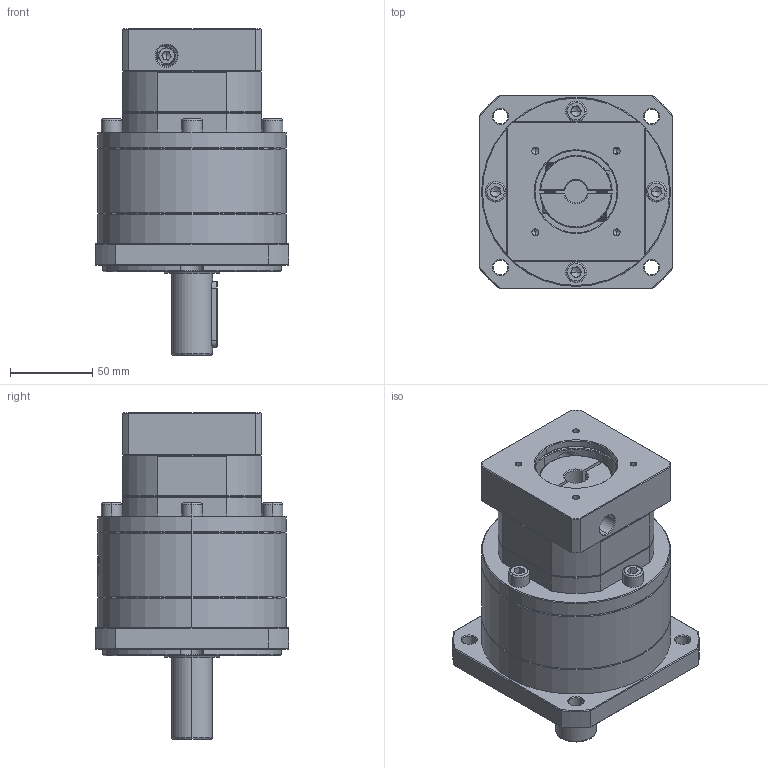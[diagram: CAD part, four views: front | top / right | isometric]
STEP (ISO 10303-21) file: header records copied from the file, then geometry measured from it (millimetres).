
FILE_DESCRIPTION (( 'STEP AP214' ), '1' );
FILE_NAME ('ZF120A-D25-L2-P2-14-50-70-M5.step', '2023-08-27T05:56:45', ( '' ), ( '' ), 'SwSTEP 2.0', 'SolidWorks 2016', '' );
FILE_SCHEMA (( 'AUTOMOTIVE_DESIGN' ));
Length unit declared in the file: millimetre
Products named in the file (1): ZF120A-D25-L2-P2-14-50-70-M5
Bounding box: 118 x 118 x 199 mm (x, y, z)
Volume: 1292226.2 mm3; surface area: 127691.4 mm2
Topology: 5 solids, 6 shells, 2073 faces, 5475 edges, 3502 vertices
Faces by surface type: plane 1053, bspline 407, cone 314, cylinder 284, torus 15
Entity records: 106230 total; most frequent: CARTESIAN_POINT 36783, ORIENTED_EDGE 10890, DIRECTION 8014, EDGE_CURVE 5445, VERTEX_POINT 3502, VECTOR 2946, LINE 2946, AXIS2_PLACEMENT_3D 2534
